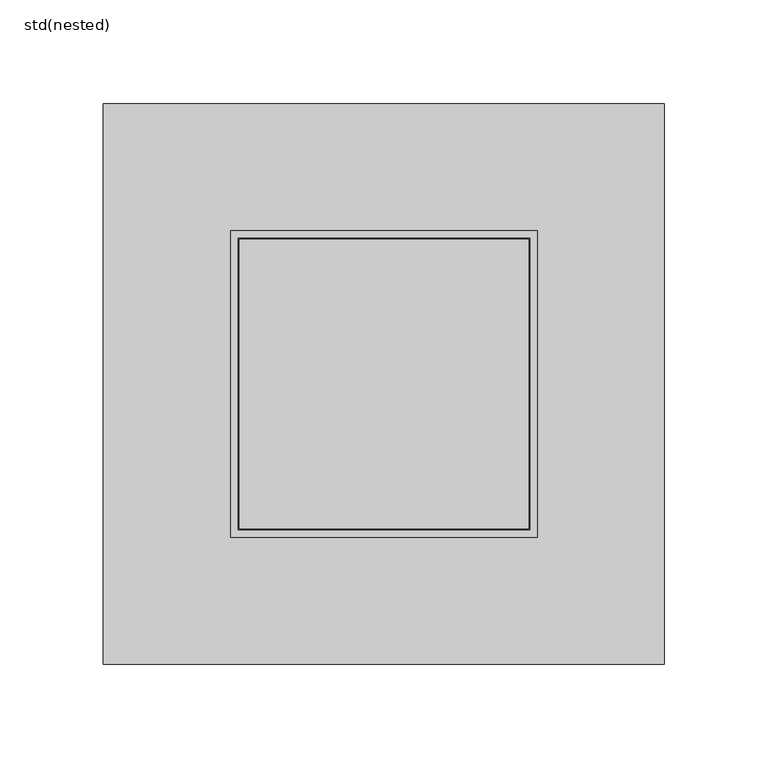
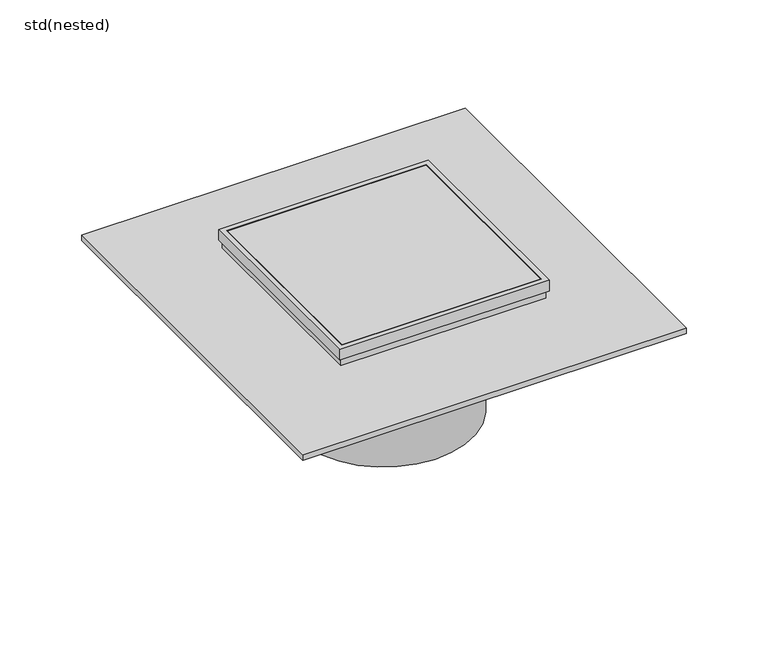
"""IFC4 building model written with IfcOpenShell, lengths in millimetres: sanitary terminal geometry, ZZZ_do not use_PF_ST_WPB_sanded flange gratings_CR 142_ACO : std(nested)."""

from ifc_helpers import new_model, si_unit, frame, origin, place, context, project, spatial, circle_curve, source, transform, mapped, element, save
from ifc_brep_helpers import plane_surface, cylinder_surface, advanced_brep


def std_nested_65d9dade(model_context):
    return source(origin(), model_context, "Body", "AdvancedBrep", [
        advanced_brep(
        [(-62.5, 0.0, -115.0), (62.5, 0.0, -115.0), (62.5, 0.0, -48.5), (-62.5, 0.0, -48.5), (62.5, 0.0, -24.0), (-62.5, 0.0, -24.0), (62.5, 0.0, -13.5), (-62.5, 0.0, -13.5), (-62.5, 0.0, -20.0), (62.5, 0.0, -20.0), (74.0, 74.0, -8.0), (74.0, 74.0, 0.0), (74.0, -74.0, 0.0), (74.0, -74.0, -8.0), (72.5, 72.5, -13.5), (72.5, 72.5, -8.0), (72.5, -72.5, -8.0), (72.5, -72.5, -13.5), (-74.0, -74.0, 0.0), (-74.0, -74.0, -8.0), (-72.5, -72.5, -8.0), (-72.5, -72.5, -13.5), (-74.0, 74.0, 0.0), (-74.0, 74.0, -8.0), (-72.5, 72.5, -8.0), (-72.5, 72.5, -13.5), (70.5, 70.5, 0.0), (70.5, -70.5, 0.0), (-70.5, -70.5, 0.0), (-70.5, 70.5, 0.0), (135.5, 135.5, -24.0), (135.5, -135.5, -24.0), (-135.5, -135.5, -24.0), (-135.5, 135.5, -24.0), (135.5, 135.5, -20.0), (-135.5, 135.5, -20.0), (-135.5, -135.5, -20.0), (135.5, -135.5, -20.0), (70.5, 70.5, -11.5), (70.5, -70.5, -11.5), (-70.5, -70.5, -11.5), (-70.5, 70.5, -11.5), (70.0, -70.0, -11.5), (-70.0, -70.0, -11.5), (-70.0, 70.0, -11.5), (70.0, 70.0, -11.5), (-70.0, -70.0, 0.0), (70.0, -70.0, 0.0), (70.0, 70.0, 0.0), (-70.0, 70.0, 0.0)],
        [
            (0, 1, circle_curve(frame((0.0, 0.0, -115.0), z_axis=(0.0, 0.0, -1.0), x_axis=(1.0, 0.0, 0.0)), 62.5)),
            (1, 0, circle_curve(frame((0.0, 0.0, -115.0), z_axis=(0.0, 0.0, -1.0), x_axis=(1.0, 0.0, 0.0)), 62.5)),
            (1, 2),
            (2, 3, circle_curve(frame((0.0, 0.0, -48.5), z_axis=(0.0, 0.0, -1.0), x_axis=(1.0, 0.0, 0.0)), 62.5)),
            (3, 0),
            (3, 2, circle_curve(frame((0.0, 0.0, -48.5), z_axis=(0.0, 0.0, -1.0), x_axis=(1.0, 0.0, 0.0)), 62.5)),
            (2, 4),
            (4, 5, circle_curve(frame((0.0, 0.0, -24.0), z_axis=(0.0, 0.0, -1.0), x_axis=(1.0, 0.0, 0.0)), 62.5)),
            (5, 3),
            (6, 7, circle_curve(frame((0.0, 0.0, -13.5), z_axis=(0.0, 0.0, -1.0), x_axis=(1.0, 0.0, 0.0)), 62.5)),
            (7, 8),
            (8, 9, circle_curve(frame((0.0, 0.0, -20.0), z_axis=(0.0, 0.0, 1.0), x_axis=(1.0, 0.0, 0.0)), 62.5)),
            (9, 6),
            (5, 4, circle_curve(frame((0.0, 0.0, -24.0), z_axis=(0.0, 0.0, -1.0), x_axis=(1.0, 0.0, 0.0)), 62.5)),
            (7, 6, circle_curve(frame((0.0, 0.0, -13.5), z_axis=(0.0, 0.0, -1.0), x_axis=(1.0, 0.0, 0.0)), 62.5)),
            (9, 8, circle_curve(frame((0.0, 0.0, -20.0), z_axis=(0.0, 0.0, 1.0), x_axis=(1.0, 0.0, 0.0)), 62.5)),
            (10, 11),
            (11, 12),
            (12, 13),
            (13, 10),
            (14, 15),
            (15, 16),
            (16, 17),
            (17, 14),
            (12, 18),
            (18, 19),
            (19, 13),
            (16, 20),
            (20, 21),
            (21, 17),
            (18, 22),
            (22, 23),
            (23, 19),
            (20, 24),
            (24, 25),
            (25, 21),
            (11, 22),
            (26, 27),
            (27, 28),
            (28, 29),
            (29, 26),
            (10, 23),
            (15, 24),
            (14, 25),
            (30, 31),
            (31, 32),
            (32, 33),
            (33, 30),
            (34, 35),
            (35, 36),
            (36, 37),
            (37, 34),
            (33, 35),
            (34, 30),
            (32, 36),
            (31, 37),
            (26, 38),
            (38, 39),
            (39, 27),
            (39, 40),
            (40, 28),
            (40, 41),
            (41, 29),
            (38, 41),
            (42, 43),
            (43, 44),
            (44, 45),
            (45, 42),
            (46, 47),
            (47, 48),
            (48, 49),
            (49, 46),
            (46, 43),
            (42, 47),
            (45, 48),
            (44, 49),
        ],
        [
            plane_surface(frame((62.5, 0.0, -115.0), z_axis=(0.0, 0.0, -1.0), x_axis=(0.0, -1.0, 0.0))),
            cylinder_surface(frame((0.0, 0.0, -115.0), z_axis=(0.0, 0.0, 1.0), x_axis=(1.0, 0.0, 0.0)), 62.5),
            cylinder_surface(frame((0.0, 0.0, -48.5), z_axis=(0.0, 0.0, 1.0), x_axis=(1.0, 0.0, 0.0)), 62.5),
            plane_surface(frame((74.0, 74.0, 0.0), z_axis=(1.0, 0.0, 0.0), x_axis=(0.0, -1.0, 0.0))),
            plane_surface(frame((72.5, 72.5, -8.0), z_axis=(1.0, 0.0, 0.0), x_axis=(0.0, -1.0, 0.0))),
            plane_surface(frame((74.0, -74.0, 0.0), z_axis=(0.0, -1.0, 0.0), x_axis=(-1.0, 0.0, 0.0))),
            plane_surface(frame((72.5, -72.5, -8.0), z_axis=(0.0, -1.0, 0.0), x_axis=(-1.0, 0.0, 0.0))),
            plane_surface(frame((-74.0, -74.0, 0.0), z_axis=(-1.0, 0.0, 0.0), x_axis=(0.0, 1.0, 0.0))),
            plane_surface(frame((-72.5, -72.5, -8.0), z_axis=(-1.0, 0.0, 0.0), x_axis=(0.0, 1.0, 0.0))),
            plane_surface(frame((-70.5, 70.5, 0.0), z_axis=(0.0, 0.0, 1.0), x_axis=(1.0, 0.0, 0.0))),
            plane_surface(frame((-74.0, 74.0, 0.0), z_axis=(0.0, 1.0, 0.0), x_axis=(1.0, 0.0, 0.0))),
            plane_surface(frame((-74.0, 74.0, -8.0), z_axis=(0.0, 0.0, -1.0), x_axis=(1.0, 0.0, 0.0))),
            plane_surface(frame((-72.5, 72.5, -8.0), z_axis=(0.0, 1.0, 0.0), x_axis=(1.0, 0.0, 0.0))),
            plane_surface(frame((-72.5, 72.5, -13.5), z_axis=(0.0, 0.0, -1.0), x_axis=(1.0, 0.0, 0.0))),
            plane_surface(frame((-135.5, 135.5, -24.0), z_axis=(0.0, 0.0, -1.0), x_axis=(1.0, 0.0, 0.0))),
            plane_surface(frame((-135.5, 135.5, -20.0), z_axis=(0.0, 0.0, 1.0), x_axis=(-1.0, 0.0, 0.0))),
            plane_surface(frame((135.5, 135.5, -20.0), z_axis=(0.0, 1.0, 0.0), x_axis=(0.0, 0.0, -1.0))),
            plane_surface(frame((-135.5, 135.5, -20.0), z_axis=(-1.0, 0.0, 0.0), x_axis=(0.0, 0.0, -1.0))),
            plane_surface(frame((-135.5, -135.5, -20.0), z_axis=(0.0, -1.0, 0.0), x_axis=(0.0, 0.0, -1.0))),
            plane_surface(frame((135.5, -135.5, -20.0), z_axis=(1.0, 0.0, 0.0), x_axis=(0.0, 0.0, -1.0))),
            plane_surface(frame((70.5, 70.5, -11.5), z_axis=(-1.0, 0.0, 0.0), x_axis=(0.0, -1.0, 0.0))),
            plane_surface(frame((70.5, -70.5, -11.5), z_axis=(0.0, 1.0, 0.0), x_axis=(-1.0, 0.0, 0.0))),
            plane_surface(frame((-70.5, -70.5, -11.5), z_axis=(1.0, 0.0, 0.0), x_axis=(0.0, 1.0, 0.0))),
            plane_surface(frame((0.0, 0.0, -11.5), z_axis=(0.0, 0.0, 1.0), x_axis=(1.0, 0.0, 0.0))),
            plane_surface(frame((-70.5, 70.5, -11.5), z_axis=(0.0, -1.0, 0.0), x_axis=(1.0, 0.0, 0.0))),
            plane_surface(frame((70.0, -70.0, 0.0), z_axis=(0.0, 0.0, 1.0), x_axis=(1.0, 0.0, 0.0))),
            plane_surface(frame((-70.0, -70.0, 0.0), z_axis=(0.0, -1.0, 0.0), x_axis=(0.0, 0.0, -1.0))),
            plane_surface(frame((70.0, -70.0, 0.0), z_axis=(1.0, 0.0, 0.0), x_axis=(0.0, 0.0, -1.0))),
            plane_surface(frame((70.0, 70.0, 0.0), z_axis=(0.0, 1.0, 0.0), x_axis=(0.0, 0.0, -1.0))),
            plane_surface(frame((-70.0, 70.0, 0.0), z_axis=(-1.0, 0.0, 0.0), x_axis=(0.0, 0.0, -1.0))),
        ],
        [
            (0, [[1, 2]]),
            (1, [[-2, 3, 4, 5]]),
            (1, [[-1, -5, 6, -3]]),
            (2, [[-4, 7, 8, 9]]),
            (2, [[10, 11, 12, 13]]),
            (2, [[-6, -9, 14, -7]]),
            (2, [[15, -13, 16, -11]]),
            (3, [[17, 18, 19, 20]]),
            (4, [[21, 22, 23, 24]]),
            (5, [[-19, 25, 26, 27]]),
            (6, [[-23, 28, 29, 30]]),
            (7, [[-26, 31, 32, 33]]),
            (8, [[-29, 34, 35, 36]]),
            (9, [[-18, 37, -31, -25], [38, 39, 40, 41]]),
            (10, [[-17, 42, -32, -37]]),
            (11, [[-20, -27, -33, -42], [-22, 43, -34, -28]]),
            (12, [[-21, 44, -35, -43]]),
            (13, [[-24, -30, -36, -44], [-10, -15]]),
            (14, [[45, 46, 47, 48], [-8, -14]]),
            (15, [[49, 50, 51, 52], [-12, -16]]),
            (16, [[-48, 53, -49, 54]]),
            (17, [[-47, 55, -50, -53]]),
            (18, [[-46, 56, -51, -55]]),
            (19, [[-45, -54, -52, -56]]),
            (20, [[57, 58, 59, -38]]),
            (21, [[-59, 60, 61, -39]]),
            (22, [[-61, 62, 63, -40]]),
            (23, [[-58, 64, -62, -60], [65, 66, 67, 68]]),
            (24, [[-57, -41, -63, -64]]),
            (25, [[69, 70, 71, 72]]),
            (26, [[-69, 73, -65, 74]]),
            (27, [[-70, -74, -68, 75]]),
            (28, [[-71, -75, -67, 76]]),
            (29, [[-72, -76, -66, -73]]),
        ],
    ),
    ])


if __name__ == "__main__":
    model = new_model("IFC4")
    model_context = context("Model", 3, world=origin())
    ifc_project = project(units=[si_unit("LENGTHUNIT", "METRE", prefix="MILLI")], contexts=[model_context])
    site = spatial("IfcSite", under=ifc_project)
    building = spatial("IfcBuilding", under=site)
    placement = place(None, origin())
    std_nested_shape = std_nested_65d9dade(model_context)
    element("IfcSanitaryTerminal", 1, ObjectType="ZZZ_do not use_PF_ST_WPB_sanded flange gratings_CR 142_ACO : std(nested)", at=placement, inside=building, context=model_context, shape_type="MappedRepresentation", body=[
        mapped(std_nested_shape, transform((0.0, 0.0, 0.0), x_axis=(1.0, 0.0, 0.0), y_axis=(0.0, 1.0, 0.0), z_axis=(0.0, 0.0, 1.0))),
    ])
    save(model, "model.ifc")
